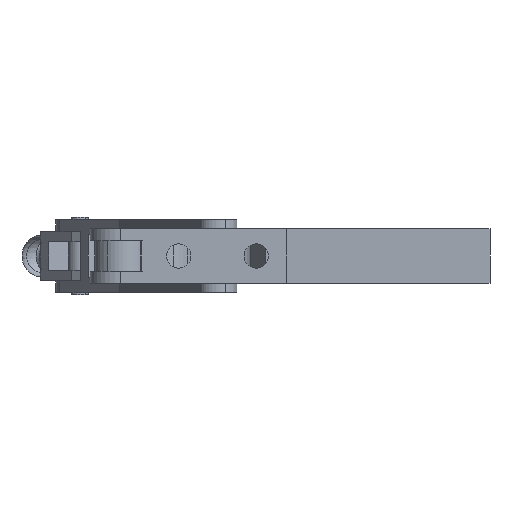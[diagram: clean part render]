
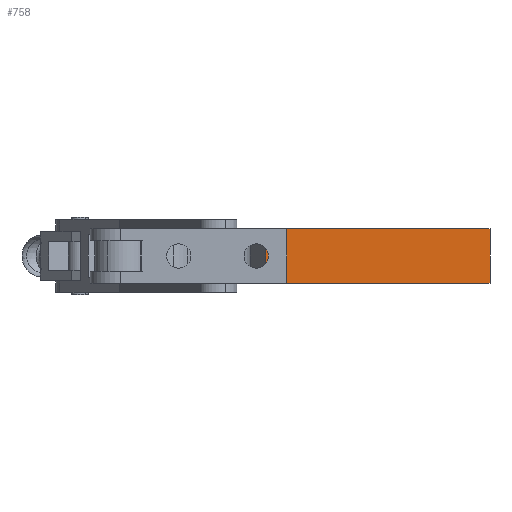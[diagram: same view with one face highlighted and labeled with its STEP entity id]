
A CAD part, front view. The second image highlights one B-rep face of the part: STEP entity #758.
In plain terms, the highlighted planar face has unit normal (0, -1, 0).
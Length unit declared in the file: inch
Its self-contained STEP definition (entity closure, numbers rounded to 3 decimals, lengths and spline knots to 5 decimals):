
#758 = ADVANCED_FACE( '', ( #961 ), #962, .T. );
#961 = FACE_OUTER_BOUND( '', #1382, .T. );
#962 = PLANE( '', #1383 );
#1382 = EDGE_LOOP( '', ( #1861, #1862, #1863, #1864, #1865, #1866, #1867, #1868 ) );
#1383 = AXIS2_PLACEMENT_3D( '', #1869, #1870, #1871 );
#1861 = ORIENTED_EDGE( '', *, *, #3339, .T. );
#1862 = ORIENTED_EDGE( '', *, *, #3351, .T. );
#1863 = ORIENTED_EDGE( '', *, *, #3341, .T. );
#1864 = ORIENTED_EDGE( '', *, *, #3350, .F. );
#1865 = ORIENTED_EDGE( '', *, *, #3352, .T. );
#1866 = ORIENTED_EDGE( '', *, *, #3353, .F. );
#1867 = ORIENTED_EDGE( '', *, *, #3354, .T. );
#1868 = ORIENTED_EDGE( '', *, *, #3345, .F. );
#1869 = CARTESIAN_POINT( '', ( -0.43858, 3.26, 0. ) );
#1870 = DIRECTION( '', ( 0., -1., 0. ) );
#1871 = DIRECTION( '', ( 1., 0., 0. ) );
#3339 = EDGE_CURVE( '', #3842, #3840, #3843, .T. );
#3341 = EDGE_CURVE( '', #3845, #3846, #3847, .T. );
#3345 = EDGE_CURVE( '', #3842, #3853, #3854, .T. );
#3350 = EDGE_CURVE( '', #3860, #3846, #3862, .T. );
#3351 = EDGE_CURVE( '', #3840, #3845, #3863, .T. );
#3352 = EDGE_CURVE( '', #3860, #3864, #3865, .T. );
#3353 = EDGE_CURVE( '', #3866, #3864, #3867, .T. );
#3354 = EDGE_CURVE( '', #3866, #3853, #3868, .T. );
#3840 = VERTEX_POINT( '', #4666 );
#3842 = VERTEX_POINT( '', #4669 );
#3843 = LINE( '', #4670, #4671 );
#3845 = VERTEX_POINT( '', #4674 );
#3846 = VERTEX_POINT( '', #4675 );
#3847 = LINE( '', #4676, #4677 );
#3853 = VERTEX_POINT( '', #4686 );
#3854 = LINE( '', #4687, #4688 );
#3860 = VERTEX_POINT( '', #4697 );
#3862 = LINE( '', #4700, #4701 );
#3863 = LINE( '', #4702, #4703 );
#3864 = VERTEX_POINT( '', #4704 );
#3865 = LINE( '', #4705, #4706 );
#3866 = VERTEX_POINT( '', #4707 );
#3867 = LINE( '', #4708, #4709 );
#3868 = LINE( '', #4710, #4711 );
#4666 = CARTESIAN_POINT( '', ( -0.43858, 3.26, 0.3125 ) );
#4669 = CARTESIAN_POINT( '', ( -1.08521, 3.26, 0.3125 ) );
#4670 = CARTESIAN_POINT( '', ( -0.88075, 3.26, 0.3125 ) );
#4671 = VECTOR( '', #5775, 1. );
#4674 = CARTESIAN_POINT( '', ( -0.43858, 3.26, -0.3125 ) );
#4675 = CARTESIAN_POINT( '', ( -1.08521, 3.26, -0.3125 ) );
#4676 = CARTESIAN_POINT( '', ( -0.88075, 3.26, -0.3125 ) );
#4677 = VECTOR( '', #5777, 1. );
#4686 = CARTESIAN_POINT( '', ( -1.08521, 3.26, 0.565 ) );
#4687 = CARTESIAN_POINT( '', ( -1.08521, 3.26, 0. ) );
#4688 = VECTOR( '', #5781, 1. );
#4697 = CARTESIAN_POINT( '', ( -1.08521, 3.26, -0.565 ) );
#4700 = CARTESIAN_POINT( '', ( -1.08521, 3.26, 0. ) );
#4701 = VECTOR( '', #5786, 1. );
#4702 = CARTESIAN_POINT( '', ( -0.43858, 3.26, 0. ) );
#4703 = VECTOR( '', #5787, 1. );
#4704 = CARTESIAN_POINT( '', ( 4.1931, 3.26, -0.565 ) );
#4705 = CARTESIAN_POINT( '', ( 4.1931, 3.26, -0.565 ) );
#4706 = VECTOR( '', #5788, 1. );
#4707 = CARTESIAN_POINT( '', ( 4.1931, 3.26, 0.565 ) );
#4708 = CARTESIAN_POINT( '', ( 4.1931, 3.26, 0. ) );
#4709 = VECTOR( '', #5789, 1. );
#4710 = CARTESIAN_POINT( '', ( -1.08521, 3.26, 0.565 ) );
#4711 = VECTOR( '', #5790, 1. );
#5775 = DIRECTION( '', ( 1., 0., 0. ) );
#5777 = DIRECTION( '', ( -1., 0., 0. ) );
#5781 = DIRECTION( '', ( 0., 0., 1. ) );
#5786 = DIRECTION( '', ( 0., 0., 1. ) );
#5787 = DIRECTION( '', ( 0., 0., -1. ) );
#5788 = DIRECTION( '', ( 1., 0., 0. ) );
#5789 = DIRECTION( '', ( 0., 0., -1. ) );
#5790 = DIRECTION( '', ( -1., 0., 0. ) );
